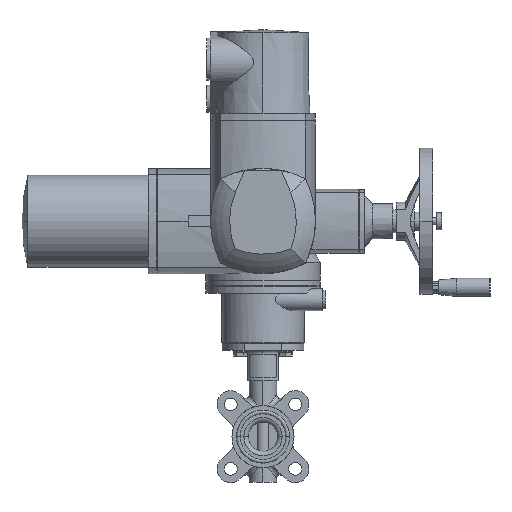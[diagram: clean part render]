
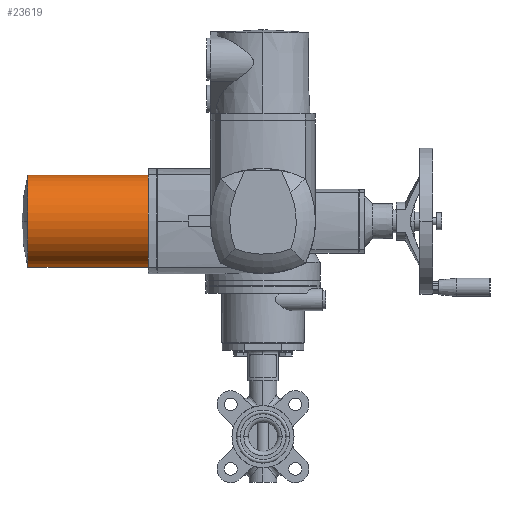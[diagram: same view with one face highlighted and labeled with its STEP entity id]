
A CAD part, top view. The second image highlights one B-rep face of the part: STEP entity #23619.
In plain terms, the highlighted cylindrical face has radius 50.5 mm (diameter 101 mm), a partial arc.
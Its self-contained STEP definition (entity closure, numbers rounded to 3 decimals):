
#295 = FACE_OUTER_BOUND ( 'NONE', #14827, .T. ) ;
#550 = ORIENTED_EDGE ( 'NONE', *, *, #25415, .T. ) ;
#2038 = CIRCLE ( 'NONE', #13929, 50.5 ) ;
#2323 = CARTESIAN_POINT ( 'NONE',  ( -257.519, -40., 184. ) ) ;
#2373 = CARTESIAN_POINT ( 'NONE',  ( -257.519, -40., 133.5 ) ) ;
#2597 = VECTOR ( 'NONE', #19900, 1000. ) ;
#2601 = CARTESIAN_POINT ( 'NONE',  ( -97.021, -40., 133.5 ) ) ;
#3389 = LINE ( 'NONE', #27484, #26557 ) ;
#4511 = LINE ( 'NONE', #4809, #2597 ) ;
#4809 = CARTESIAN_POINT ( 'NONE',  ( -97.021, -40., 184. ) ) ;
#4917 = EDGE_CURVE ( 'NONE', #19202, #22632, #3389, .T. ) ;
#6457 = CARTESIAN_POINT ( 'NONE',  ( -257.519, -90.5, 133.5 ) ) ;
#7040 = CARTESIAN_POINT ( 'NONE',  ( -257.519, -40., 83. ) ) ;
#8238 = DIRECTION ( 'NONE',  ( 1., 0., 0. ) ) ;
#8643 = EDGE_CURVE ( 'NONE', #24453, #11226, #2038, .T. ) ;
#8860 = DIRECTION ( 'NONE',  ( 1., 0., 0. ) ) ;
#8960 = DIRECTION ( 'NONE',  ( 0., 0., -1. ) ) ;
#11068 = CYLINDRICAL_SURFACE ( 'NONE', #18387, 50.5 ) ;
#11122 = CARTESIAN_POINT ( 'NONE',  ( -125.5, -40., 133.5 ) ) ;
#11216 = AXIS2_PLACEMENT_3D ( 'NONE', #11122, #17994, #8960 ) ;
#11226 = VERTEX_POINT ( 'NONE', #6457 ) ;
#11763 = EDGE_CURVE ( 'NONE', #11226, #19202, #18999, .T. ) ;
#12101 = CIRCLE ( 'NONE', #11216, 50.5 ) ;
#13483 = AXIS2_PLACEMENT_3D ( 'NONE', #2373, #8238, #17016 ) ;
#13602 = EDGE_CURVE ( 'NONE', #24453, #13869, #4511, .T. ) ;
#13869 = VERTEX_POINT ( 'NONE', #19249 ) ;
#13929 = AXIS2_PLACEMENT_3D ( 'NONE', #19618, #8860, #24104 ) ;
#14827 = EDGE_LOOP ( 'NONE', ( #22877, #21912, #22907, #550, #26432 ) ) ;
#15802 = DIRECTION ( 'NONE',  ( 1., 0., 0. ) ) ;
#17016 = DIRECTION ( 'NONE',  ( 0., 0., 1. ) ) ;
#17994 = DIRECTION ( 'NONE',  ( -1., 0., 0. ) ) ;
#18338 = DIRECTION ( 'NONE',  ( 0., 0., 1. ) ) ;
#18387 = AXIS2_PLACEMENT_3D ( 'NONE', #2601, #15802, #18338 ) ;
#18999 = CIRCLE ( 'NONE', #13483, 50.5 ) ;
#19202 = VERTEX_POINT ( 'NONE', #7040 ) ;
#19249 = CARTESIAN_POINT ( 'NONE',  ( -125.5, -40., 184. ) ) ;
#19618 = CARTESIAN_POINT ( 'NONE',  ( -257.519, -40., 133.5 ) ) ;
#19900 = DIRECTION ( 'NONE',  ( 1., 0., 0. ) ) ;
#21060 = DIRECTION ( 'NONE',  ( 1., 0., 0. ) ) ;
#21662 = CARTESIAN_POINT ( 'NONE',  ( -125.5, -40., 83. ) ) ;
#21912 = ORIENTED_EDGE ( 'NONE', *, *, #11763, .T. ) ;
#22632 = VERTEX_POINT ( 'NONE', #21662 ) ;
#22877 = ORIENTED_EDGE ( 'NONE', *, *, #8643, .T. ) ;
#22907 = ORIENTED_EDGE ( 'NONE', *, *, #4917, .T. ) ;
#23619 = ADVANCED_FACE ( 'NONE', ( #295 ), #11068, .T. ) ;
#24104 = DIRECTION ( 'NONE',  ( 0., 0., 1. ) ) ;
#24453 = VERTEX_POINT ( 'NONE', #2323 ) ;
#25415 = EDGE_CURVE ( 'NONE', #22632, #13869, #12101, .T. ) ;
#26432 = ORIENTED_EDGE ( 'NONE', *, *, #13602, .F. ) ;
#26557 = VECTOR ( 'NONE', #21060, 1000. ) ;
#27484 = CARTESIAN_POINT ( 'NONE',  ( -97.021, -40., 83. ) ) ;
